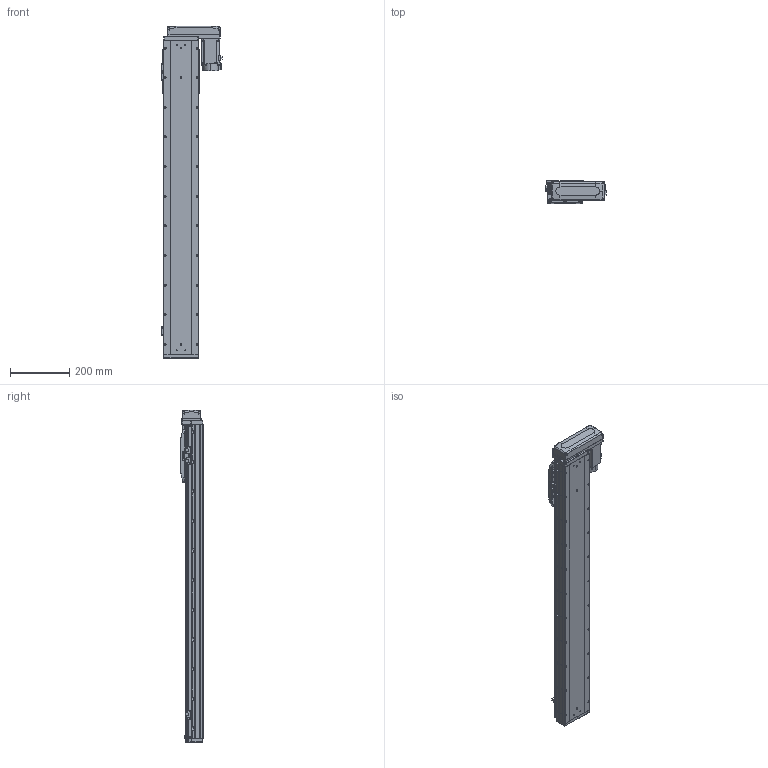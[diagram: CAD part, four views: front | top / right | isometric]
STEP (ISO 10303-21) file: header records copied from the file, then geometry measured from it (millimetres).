
FILE_DESCRIPTION (( 'STEP AP203' ), '1' );
FILE_NAME ('GTH12-850-BL-M40-C4.step', '2025-07-16T03:42:23', ( '' ), ( '' ), 'SwSTEP 2.0', 'SolidWorks 2023', '' );
FILE_SCHEMA (( 'CONFIG_CONTROL_DESIGN' ));
Length unit declared in the file: millimetre
Products named in the file (17): 感应器总成右; GTH80-022; BTH-M3X5X6; CTHA86-033_M40B; GTH12-850-BL-M40-C4; GBT 70.1-M5×16; GTH80-028; GTH120-013; GTH120-006; GBT 70.1-M3×6; GTH120-003; 感应器总成左; GTH120-004; GBT 70.3-M3×8; GTH120-001_850; hg-kn43j_-s100_; GTH120-027-1_GTH120-027-2
Assembly tree (38 placements, depth 2):
  GTH12-850-BL-M40-C4
    GTH120-001_850
    GTH120-003
    GTH120-006
    GTH120-004
    GTH120-013
    GBT 70.1-M3×6  x2
    GBT 70.1-M5×16  x10
    GBT 70.3-M3×8  x4
    GTH80-022
    GTH80-028  x2
    BTH-M3X5X6  x8
    hg-kn43j_-s100_
    CTHA86-033_M40B
    GTH120-027-1_GTH120-027-2
    感应器总成右  x2
    感应器总成左
Bounding box: 203.5 x 76 x 1120.5 mm (x, y, z)
Volume: 8157908.5 mm3; surface area: 720831.8 mm2
Topology: 55 solids, 55 shells, 2451 faces, 5772 edges, 3557 vertices
Faces by surface type: plane 1244, cylinder 719, cone 312, torus 162, sphere 8, bspline 6
Entity records: 54218 total; most frequent: CARTESIAN_POINT 9278, DIRECTION 9195, ORIENTED_EDGE 8536, EDGE_CURVE 4268, AXIS2_PLACEMENT_3D 3207, VECTOR 2781, LINE 2781, VERTEX_POINT 2690
